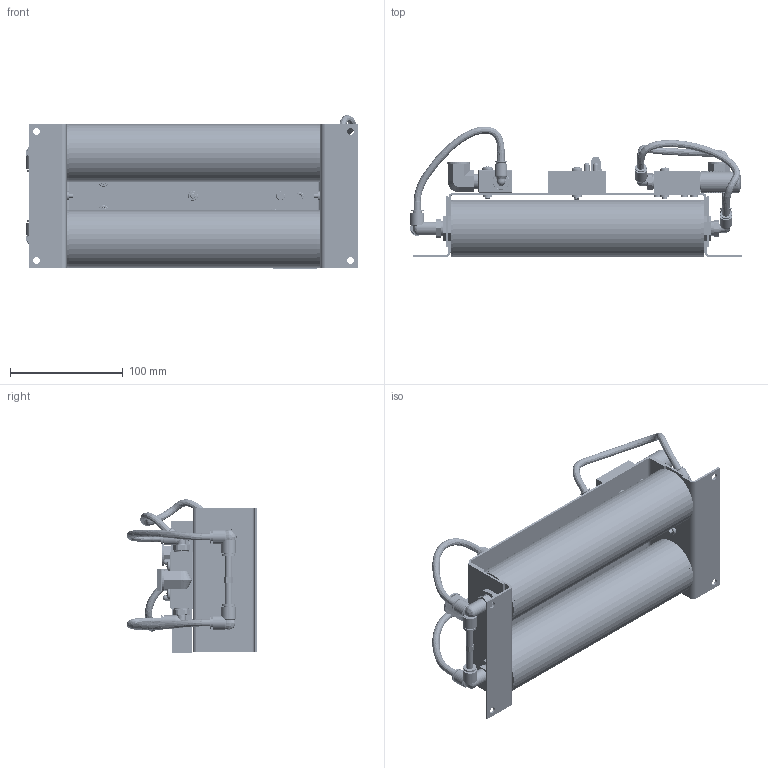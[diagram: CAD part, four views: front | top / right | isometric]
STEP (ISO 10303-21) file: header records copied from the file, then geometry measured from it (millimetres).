
FILE_DESCRIPTION (( 'STEP AP214' ), '1' );
FILE_NAME ('MDH6-XHE.STEP', '2020-09-17T19:00:25', ( '' ), ( '' ), 'SwSTEP 2.0', 'SolidWorks 2017', '' );
FILE_SCHEMA (( 'AUTOMOTIVE_DESIGN' ));
Length unit declared in the file: inch
Products named in the file (1): MDH6-XHE
Bounding box: 294.24 x 115.55 x 135.95 mm (x, y, z)
Volume: 653121 mm3; surface area: 410004.8 mm2
Topology: 57 solids, 57 shells, 4196 faces, 11160 edges, 7216 vertices
Faces by surface type: plane 2004, cylinder 1314, cone 418, bspline 348, torus 74, sphere 38
Entity records: 214714 total; most frequent: CARTESIAN_POINT 59455, ORIENTED_EDGE 22188, DIRECTION 19180, EDGE_CURVE 11094, VERTEX_POINT 7204, AXIS2_PLACEMENT_3D 6697, LINE 5786, VECTOR 5786
